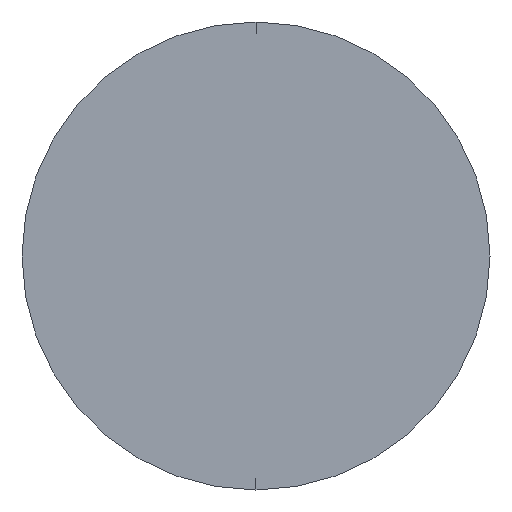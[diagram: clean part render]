
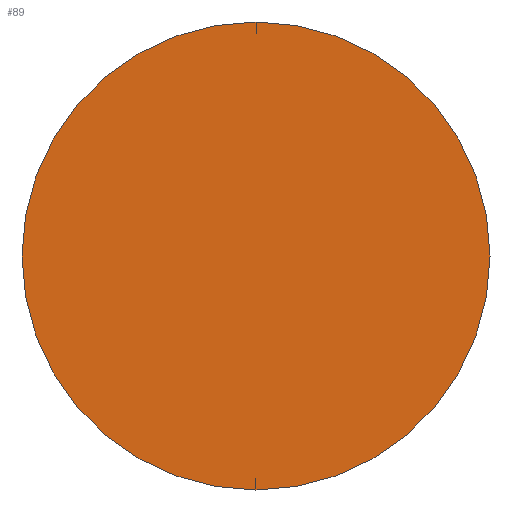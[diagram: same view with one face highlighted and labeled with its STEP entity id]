
A CAD part, left-side view. The second image highlights one B-rep face of the part: STEP entity #89.
In plain terms, the highlighted planar face has unit normal (-1, 0, 0).
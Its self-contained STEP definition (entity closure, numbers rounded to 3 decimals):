
#6 = AXIS2_PLACEMENT_3D ( 'NONE', #291, #235, #288 ) ;
#9 = CIRCLE ( 'NONE', #279, 1.5 ) ;
#11 = EDGE_LOOP ( 'NONE', ( #108, #186 ) ) ;
#21 = CARTESIAN_POINT ( 'NONE',  ( 0., 0., 0. ) ) ;
#55 = CARTESIAN_POINT ( 'NONE',  ( 0., 0., -1.5 ) ) ;
#73 = CIRCLE ( 'NONE', #139, 1.5 ) ;
#89 = ADVANCED_FACE ( 'NONE', ( #284 ), #287, .F. ) ;
#103 = EDGE_CURVE ( 'NONE', #258, #136, #73, .T. ) ;
#108 = ORIENTED_EDGE ( 'NONE', *, *, #103, .T. ) ;
#124 = DIRECTION ( 'NONE',  ( 0., 0., 1. ) ) ;
#130 = DIRECTION ( 'NONE',  ( -1., 0., 0. ) ) ;
#136 = VERTEX_POINT ( 'NONE', #55 ) ;
#139 = AXIS2_PLACEMENT_3D ( 'NONE', #144, #130, #124 ) ;
#144 = CARTESIAN_POINT ( 'NONE',  ( 0., 0., 0. ) ) ;
#179 = DIRECTION ( 'NONE',  ( 0., 0., 1. ) ) ;
#186 = ORIENTED_EDGE ( 'NONE', *, *, #272, .T. ) ;
#188 = CARTESIAN_POINT ( 'NONE',  ( 0., 0., 1.5 ) ) ;
#218 = DIRECTION ( 'NONE',  ( -1., 0., 0. ) ) ;
#235 = DIRECTION ( 'NONE',  ( 1., 0., 0. ) ) ;
#258 = VERTEX_POINT ( 'NONE', #188 ) ;
#272 = EDGE_CURVE ( 'NONE', #136, #258, #9, .T. ) ;
#279 = AXIS2_PLACEMENT_3D ( 'NONE', #21, #218, #179 ) ;
#284 = FACE_OUTER_BOUND ( 'NONE', #11, .T. ) ;
#287 = PLANE ( 'NONE',  #6 ) ;
#288 = DIRECTION ( 'NONE',  ( 0., 0., -1. ) ) ;
#291 = CARTESIAN_POINT ( 'NONE',  ( 0., 0., 0. ) ) ;
